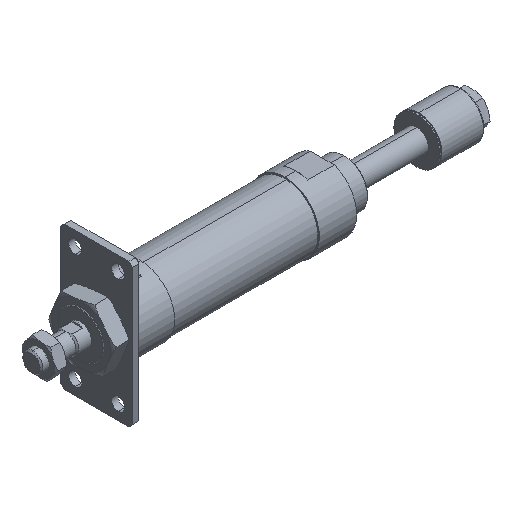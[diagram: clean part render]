
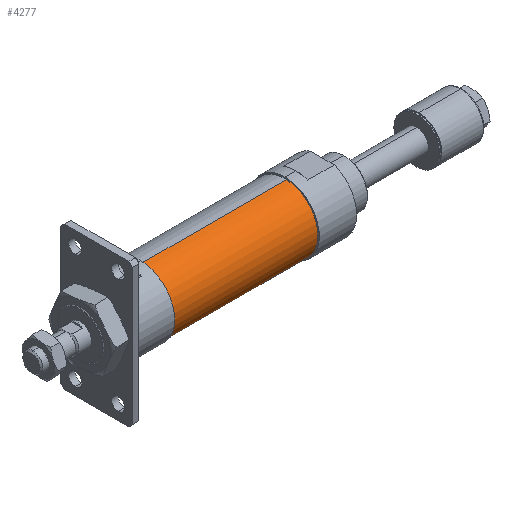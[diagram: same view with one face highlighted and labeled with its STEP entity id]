
A CAD part, isometric view. The second image highlights one B-rep face of the part: STEP entity #4277.
In plain terms, the highlighted cylindrical face has radius 23 mm (diameter 46 mm), a partial arc.
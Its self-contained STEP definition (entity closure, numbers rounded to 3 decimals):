
#30 = LINE ( 'NONE', #4556, #3671 ) ;
#149 = CARTESIAN_POINT ( 'NONE',  ( -50.5, 0., -23. ) ) ;
#363 = ORIENTED_EDGE ( 'NONE', *, *, #4769, .T. ) ;
#449 = CARTESIAN_POINT ( 'NONE',  ( 50.5, 0., -23. ) ) ;
#468 = CARTESIAN_POINT ( 'NONE',  ( 50.5, 0., 0. ) ) ;
#675 = DIRECTION ( 'NONE',  ( -1., 0., 0. ) ) ;
#749 = EDGE_LOOP ( 'NONE', ( #3183, #2302, #1691, #363 ) ) ;
#1311 = CARTESIAN_POINT ( 'NONE',  ( -50.5, 0., 0. ) ) ;
#1346 = VERTEX_POINT ( 'NONE', #149 ) ;
#1351 = DIRECTION ( 'NONE',  ( -1., 0., 0. ) ) ;
#1373 = EDGE_CURVE ( 'NONE', #3762, #3730, #1707, .T. ) ;
#1491 = CIRCLE ( 'NONE', #3841, 23. ) ;
#1636 = AXIS2_PLACEMENT_3D ( 'NONE', #2881, #3076, #4312 ) ;
#1691 = ORIENTED_EDGE ( 'NONE', *, *, #4166, .T. ) ;
#1707 = CIRCLE ( 'NONE', #1636, 23. ) ;
#1984 = DIRECTION ( 'NONE',  ( -1., 0., 0. ) ) ;
#2148 = DIRECTION ( 'NONE',  ( 0., 0., 1. ) ) ;
#2293 = DIRECTION ( 'NONE',  ( 1., 0., 0. ) ) ;
#2302 = ORIENTED_EDGE ( 'NONE', *, *, #1373, .F. ) ;
#2528 = EDGE_CURVE ( 'NONE', #3730, #1346, #3398, .T. ) ;
#2757 = VECTOR ( 'NONE', #675, 1000. ) ;
#2823 = DIRECTION ( 'NONE',  ( 0., 0., -1. ) ) ;
#2881 = CARTESIAN_POINT ( 'NONE',  ( 50.5, 0., 0. ) ) ;
#2939 = AXIS2_PLACEMENT_3D ( 'NONE', #468, #1984, #2148 ) ;
#3016 = CARTESIAN_POINT ( 'NONE',  ( 50.5, 0., 23. ) ) ;
#3076 = DIRECTION ( 'NONE',  ( 1., 0., 0. ) ) ;
#3149 = CARTESIAN_POINT ( 'NONE',  ( 50.5, 0., -23. ) ) ;
#3183 = ORIENTED_EDGE ( 'NONE', *, *, #2528, .F. ) ;
#3398 = LINE ( 'NONE', #3149, #2757 ) ;
#3403 = CARTESIAN_POINT ( 'NONE',  ( -50.5, 0., 23. ) ) ;
#3671 = VECTOR ( 'NONE', #1351, 1000. ) ;
#3730 = VERTEX_POINT ( 'NONE', #449 ) ;
#3762 = VERTEX_POINT ( 'NONE', #3016 ) ;
#3841 = AXIS2_PLACEMENT_3D ( 'NONE', #1311, #2293, #2823 ) ;
#4166 = EDGE_CURVE ( 'NONE', #3762, #5458, #30, .T. ) ;
#4189 = FACE_OUTER_BOUND ( 'NONE', #749, .T. ) ;
#4277 = ADVANCED_FACE ( 'NONE', ( #4189 ), #4909, .T. ) ;
#4312 = DIRECTION ( 'NONE',  ( 0., 0., -1. ) ) ;
#4556 = CARTESIAN_POINT ( 'NONE',  ( 50.5, 0., 23. ) ) ;
#4769 = EDGE_CURVE ( 'NONE', #5458, #1346, #1491, .T. ) ;
#4909 = CYLINDRICAL_SURFACE ( 'NONE', #2939, 23. ) ;
#5458 = VERTEX_POINT ( 'NONE', #3403 ) ;
